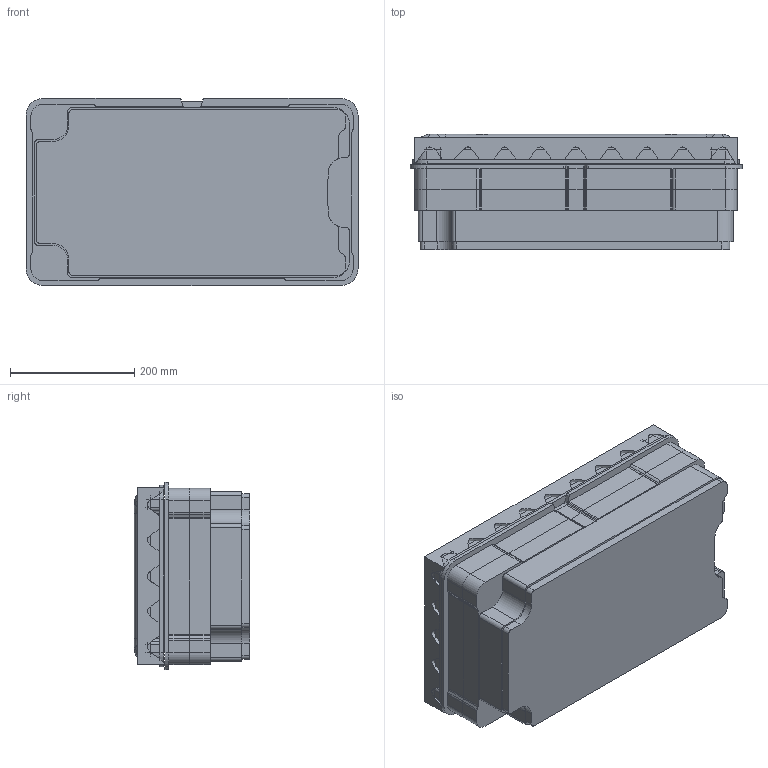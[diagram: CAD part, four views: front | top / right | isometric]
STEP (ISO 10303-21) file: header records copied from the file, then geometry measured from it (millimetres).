
FILE_DESCRIPTION (( 'STEP AP203' ), '1' );
FILE_NAME ('00935_NANUK_CUSTOM_FOAM_ASSY.STEP', '2016-12-27T15:08:30', ( '' ), ( '' ), 'SwSTEP 2.0', 'SolidWorks 2015', '' );
FILE_SCHEMA (( 'CONFIG_CONTROL_DESIGN' ));
Length unit declared in the file: inch
Products named in the file (5): 00935_NANUK_BASE_FOAM_p.00_D‚faut<Brut d''usinage>; 00935_NANUK_EGGSHELL_FOAM_p.00_Default<As Machined>; 00935_NANUK_LID_WITH_LIP_FOAM_P.00_D‚faut<As Machined>; 00935_NANUK_LID_FOAM_p.00; 00935_NANUK_CUSTOM_FOAM_ASSY
Assembly tree (4 placements, depth 2):
  00935_NANUK_CUSTOM_FOAM_ASSY
    00935_NANUK_BASE_FOAM_p.00_D‚faut<Brut d''usinage>
    00935_NANUK_EGGSHELL_FOAM_p.00_Default<As Machined>
    00935_NANUK_LID_WITH_LIP_FOAM_P.00_D‚faut<As Machined>
    00935_NANUK_LID_FOAM_p.00
Bounding box: 534.7 x 185.74 x 301.31 mm (x, y, z)
Surface area: 3003577.7 mm2
Topology: 9 solids, 9 shells, 372 faces, 999 edges, 638 vertices
Faces by surface type: cylinder 179, plane 129, bspline 56, torus 8
Entity records: 22886 total; most frequent: CARTESIAN_POINT 13322, ORIENTED_EDGE 1966, DIRECTION 1837, EDGE_CURVE 983, AXIS2_PLACEMENT_3D 665, VERTEX_POINT 638, VECTOR 507, LINE 507
